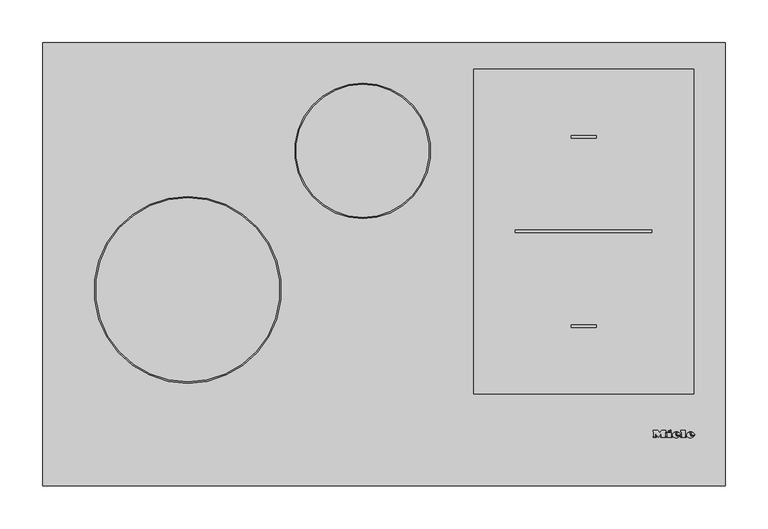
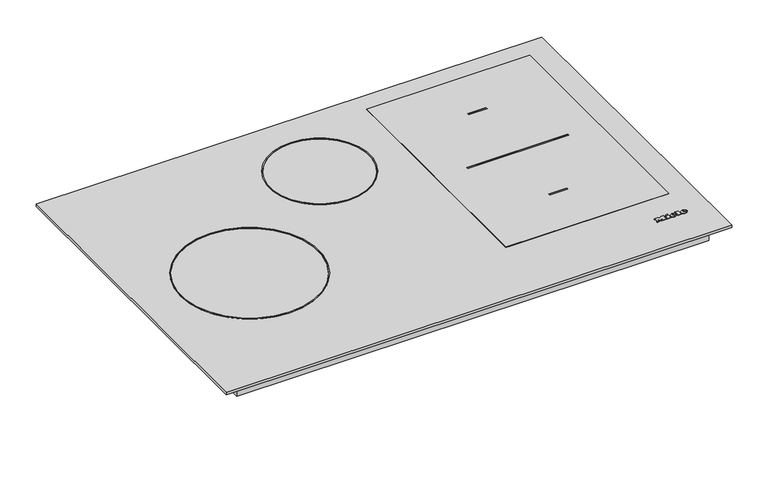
"""IFC4 building model written with IfcOpenShell, lengths in millimetres: proxy geometry, 11506350_D_KM7879FL : 26787970_D_11506350_KM7879FL."""

import ifcopenshell
import ifcopenshell.guid

model = None  # the IFC model being written
_history = None  # IfcOwnerHistory: only IFC2X3 demands one
_inside = {}  # id of a spatial element -> (the spatial element, [elements in it])
_under = {}  # id of a project, library or spatial element -> (it, [spatial elements below it])
_declared = {}  # id of a project -> (the project, [libraries it declares])
_typed = {}  # id of a type object -> (the type object, [elements of that type])
_made_of = {}  # id of a material, layer set ... -> (it, [elements and type objects made of it])


def new_model(schema):
    """Start an empty IFC model of exactly this schema.

    Asked for "IFC4X3", IfcOpenShell would pick the latest addendum, in which some entities
    have other attributes; the version numbers below select the first issue.
    IFC2X3 requires an IfcOwnerHistory on every rooted entity: one is made here for all.
    """
    global model, _history
    if schema == "IFC4X3":
        model = ifcopenshell.file(schema_version=(4, 3, 0, 0))
    else:
        model = ifcopenshell.file(schema=schema)
    _inside.clear()
    _under.clear()
    _declared.clear()
    _typed.clear()
    _made_of.clear()
    _history = None
    if model.schema == "IFC2X3":
        org = make("IfcOrganization", Name="unknown")
        user = make(
            "IfcPersonAndOrganization",
            ThePerson=make("IfcPerson", FamilyName="unknown"),
            TheOrganization=org,
        )
        app = make(
            "IfcApplication",
            ApplicationDeveloper=org,
            Version="unknown",
            ApplicationFullName="unknown",
            ApplicationIdentifier="unknown",
        )
        _history = make(
            "IfcOwnerHistory",
            OwningUser=user,
            OwningApplication=app,
            ChangeAction="ADDED",
            CreationDate=0,
        )
    return model


def make(cls, **values):
    """One entity of the class cls with the attributes given. An attribute that is None is left unset."""
    return model.create_entity(
        cls, **{name: value for name, value in values.items() if value is not None}
    )


def rooted(cls, **values):
    """An entity with a GlobalId (a new one), such as an element, a storey or a relation."""
    return make(cls, GlobalId=ifcopenshell.guid.new(), OwnerHistory=_history, **values)


def si_unit(unit_type, name, prefix=None):
    """IfcSIUnit, for example si_unit("LENGTHUNIT", "METRE", prefix="MILLI")."""
    return make("IfcSIUnit", UnitType=unit_type, Prefix=prefix, Name=name)


def assignment(units):
    """IfcUnitAssignment: the units of a project."""
    return None if units is None else make("IfcUnitAssignment", Units=units)


def point(xyz):
    """IfcCartesianPoint."""
    return None if xyz is None else make("IfcCartesianPoint", Coordinates=xyz)


def direction(xyz):
    """IfcDirection."""
    return None if xyz is None else make("IfcDirection", DirectionRatios=xyz)


def frame(location, z_axis=None, x_axis=None):
    """IfcAxis2Placement3D, a coordinate frame: its origin and axes. An axis left out is left unset."""
    return make(
        "IfcAxis2Placement3D",
        Location=point(location),
        Axis=direction(z_axis),
        RefDirection=direction(x_axis),
    )


def frame_2d(location, x_axis=None):
    """IfcAxis2Placement2D, a coordinate frame in the plane: its origin and x axis."""
    return make(
        "IfcAxis2Placement2D", Location=point(location), RefDirection=direction(x_axis)
    )


def origin():
    """The frame at (0, 0, 0) with its axes left unset."""
    return frame((0.0, 0.0, 0.0))


def origin_with_axes():
    """The frame at (0, 0, 0) with the z axis (0, 0, 1) and the x axis (1, 0, 0) written out."""
    return frame((0.0, 0.0, 0.0), z_axis=(0.0, 0.0, 1.0), x_axis=(1.0, 0.0, 0.0))


def place(relative_to, where):
    """IfcLocalPlacement: puts the frame where relative to a parent placement (None: the world)."""
    return make(
        "IfcLocalPlacement", PlacementRelTo=relative_to, RelativePlacement=where
    )


def context(
    kind, dimensions, precision=None, world=None, true_north=None, identifier=None
):
    """IfcGeometricRepresentationContext, for example the 3D "Model" context."""
    return make(
        "IfcGeometricRepresentationContext",
        ContextIdentifier=identifier,
        ContextType=kind,
        CoordinateSpaceDimension=dimensions,
        Precision=precision,
        WorldCoordinateSystem=world,
        TrueNorth=true_north,
    )


def project(units=None, contexts=None):
    """IfcProject with its units and contexts."""
    return rooted(
        "IfcProject",
        Name="project",
        RepresentationContexts=contexts,
        UnitsInContext=assignment(units),
    )


def spatial(cls, under=None, at=None, **own):
    """A site, building, storey or space (cls), placed at a placement, below another one or the project."""
    s = rooted(cls, ObjectPlacement=at, **own)
    if under is not None:
        _under.setdefault(under.id(), (under, []))[1].append(s)
    return s


def polyline(points):
    """IfcPolyline through the points."""
    return make("IfcPolyline", Points=[point(p) for p in points])


def circle_curve(where, radius):
    """IfcCircle in the frame where."""
    return make("IfcCircle", Position=where, Radius=radius)


def ellipse_curve(where, semi_axis1, semi_axis2):
    """IfcEllipse in the frame where."""
    return make(
        "IfcEllipse", Position=where, SemiAxis1=semi_axis1, SemiAxis2=semi_axis2
    )


def trimmed(basis, trim1, trim2, sense, master):
    """IfcTrimmedCurve: the piece of a basis curve between two trims."""
    return make(
        "IfcTrimmedCurve",
        BasisCurve=basis,
        Trim1=trim1,
        Trim2=trim2,
        SenseAgreement=sense,
        MasterRepresentation=master,
    )


def segment(curve, same_sense, transition):
    """IfcCompositeCurveSegment."""
    return make(
        "IfcCompositeCurveSegment",
        Transition=transition,
        SameSense=same_sense,
        ParentCurve=curve,
    )


def composite_curve(segments, self_intersect=None):
    """IfcCompositeCurve: segments joined end to end."""
    return make("IfcCompositeCurve", Segments=segments, SelfIntersect=self_intersect)


def outline(outer, holes=None, kind="AREA"):
    """IfcArbitraryClosedProfileDef: a profile drawn as a closed curve; with holes, ...WithVoids."""
    if holes is None:
        return make("IfcArbitraryClosedProfileDef", ProfileType=kind, OuterCurve=outer)
    return make(
        "IfcArbitraryProfileDefWithVoids",
        ProfileType=kind,
        OuterCurve=outer,
        InnerCurves=holes,
    )


def extrude(swept, where, along, depth):
    """IfcExtrudedAreaSolid: the profile swept, set in the frame where, extruded along a direction by depth."""
    return make(
        "IfcExtrudedAreaSolid",
        SweptArea=swept,
        Position=where,
        ExtrudedDirection=direction(along),
        Depth=depth,
    )


def shape(context_of_items, identifier, shape_type, items):
    """IfcShapeRepresentation: the items that make up one representation, for example the "Body"."""
    return make(
        "IfcShapeRepresentation",
        ContextOfItems=context_of_items,
        RepresentationIdentifier=identifier,
        RepresentationType=shape_type,
        Items=items,
    )


def source(mapping_origin, context_of_items, identifier, shape_type, items):
    """IfcRepresentationMap: a shape defined once, which mapped items show again and again."""
    return make(
        "IfcRepresentationMap",
        MappingOrigin=mapping_origin,
        MappedRepresentation=shape(context_of_items, identifier, shape_type, items),
    )


def transform(
    local_origin,
    x_axis=None,
    y_axis=None,
    z_axis=None,
    scale=None,
    scale2=None,
    scale3=None,
    uniform=True,
):
    """IfcCartesianTransformationOperator3D, or its non-uniform kind. x_axis, y_axis, z_axis: its Axis1, 2, 3."""
    if uniform:
        return make(
            "IfcCartesianTransformationOperator3D",
            Axis1=direction(x_axis),
            Axis2=direction(y_axis),
            LocalOrigin=point(local_origin),
            Scale=scale,
            Axis3=direction(z_axis),
        )
    return make(
        "IfcCartesianTransformationOperator3DnonUniform",
        Axis1=direction(x_axis),
        Axis2=direction(y_axis),
        LocalOrigin=point(local_origin),
        Scale=scale,
        Axis3=direction(z_axis),
        Scale2=scale2,
        Scale3=scale3,
    )


def mapped(mapping_source, mapping_target):
    """IfcMappedItem: shows the shape of a source again, moved by a transform."""
    return make(
        "IfcMappedItem", MappingSource=mapping_source, MappingTarget=mapping_target
    )


def made_of(thing, what):
    """Note that an element or type object is made of a material, layer set ...; save() writes the relation."""
    if what is not None:
        _made_of.setdefault(what.id(), (what, []))[1].append(thing)
    return thing


def element(
    cls,
    number,
    at=None,
    inside=None,
    cuts=None,
    type_object=None,
    material=None,
    context=None,
    identifier="Body",
    shape_type=None,
    held_by="IfcProductDefinitionShape",
    body=None,
    shapes=None,
    **own,
):
    """One element of the class cls, such as IfcWall. Its Tag is "e" and its number.

    at: its placement. inside: the storey or other place that contains it. cuts: it is an
    opening in that element (IfcRelVoidsElement). A single representation is given by context,
    identifier, shape_type and body (its items); several are given by shapes. held_by: the class
    of the entity that holds the representations. save() writes the other relations.
    """
    e = rooted(cls, Tag="e%d" % number, ObjectPlacement=at, **own)
    if body is not None:
        shapes = [shape(context, identifier, shape_type, body)]
    if shapes is not None:
        e.Representation = make(held_by, Representations=shapes)
    if inside is not None:
        _inside.setdefault(inside.id(), (inside, []))[1].append(e)
    if cuts is not None:
        rooted(
            "IfcRelVoidsElement", RelatingBuildingElement=cuts, RelatedOpeningElement=e
        )
    if type_object is not None:
        _typed.setdefault(type_object.id(), (type_object, []))[1].append(e)
    return made_of(e, material)


def aggregate(whole, parts):
    """IfcRelAggregates: a whole, such as a stair, and the parts it consists of."""
    return rooted("IfcRelAggregates", RelatingObject=whole, RelatedObjects=parts)


def save(model, path):
    """Write the relations noted so far, then the file.

    IfcRelAggregates (storeys below a building ...), IfcRelContainedInSpatialStructure (elements
    in a storey), IfcRelDefinesByType, IfcRelAssociatesMaterial and IfcRelDeclares: one each for
    every whole, place, type object, material and project.
    """
    for whole, parts in _under.values():
        aggregate(whole, parts)
    for where, things in _inside.values():
        rooted(
            "IfcRelContainedInSpatialStructure",
            RelatedElements=things,
            RelatingStructure=where,
        )
    for kind, things in _typed.values():
        rooted("IfcRelDefinesByType", RelatedObjects=things, RelatingType=kind)
    for what, things in _made_of.values():
        rooted("IfcRelAssociatesMaterial", RelatedObjects=things, RelatingMaterial=what)
    for by, libraries in _declared.values():
        rooted("IfcRelDeclares", RelatingContext=by, RelatedDefinitions=libraries)
    model.write(path)


def plane_surface(at):
    """IfcPlane: the flat surface through the origin of the frame at, square to its z axis."""
    return make("IfcPlane", Position=at)


def cylinder_surface(at, radius):
    """IfcCylindricalSurface: all points at the distance radius from the z axis of the frame at."""
    return make("IfcCylindricalSurface", Position=at, Radius=radius)


def revolved_surface(curve, axis_point, axis_direction):
    """IfcSurfaceOfRevolution: the curve turned about the line through axis_point along axis_direction."""
    return make(
        "IfcSurfaceOfRevolution",
        SweptCurve=make("IfcArbitraryOpenProfileDef", ProfileType="CURVE", Curve=curve),
        AxisPosition=make("IfcAxis1Placement", Location=point(axis_point), Axis=direction(axis_direction)),
    )


def extruded_surface(curve, direction_of_extrusion, depth):
    """IfcSurfaceOfLinearExtrusion: the curve pushed along a direction by depth."""
    return make(
        "IfcSurfaceOfLinearExtrusion",
        SweptCurve=make("IfcArbitraryOpenProfileDef", ProfileType="CURVE", Curve=curve),
        ExtrudedDirection=direction(direction_of_extrusion),
        Depth=depth,
    )


def advanced_brep(points, edges, surfaces, faces):
    """IfcAdvancedBrep: a solid bounded by faces that lie on surfaces and meet in shared edges.

    An edge is (start, end): straight between two places in points (the first is 0);
    or (start, end, curve); or (start, end, curve, False) where it runs against its curve.
    A face is (place in surfaces, loops), or (place, loops, False) where it looks against
    its surface's normal. A loop lists edges by number (the first is 1), with a minus sign
    where the edge is run from its end to its start. The first loop is the outer one.
    """
    corners = [point(p) for p in points]
    vertices = [make("IfcVertexPoint", VertexGeometry=c) for c in corners]
    made = []
    for start, end, *more in edges:
        made.append(
            make(
                "IfcEdgeCurve",
                EdgeStart=vertices[start],
                EdgeEnd=vertices[end],
                EdgeGeometry=more[0] if more else make("IfcPolyline", Points=[corners[start], corners[end]]),
                SameSense=more[1] if len(more) > 1 else True,
            )
        )
    hull = []
    for where, loops, *sense in faces:
        bounds = []
        for j, loop in enumerate(loops):
            ring = [make("IfcOrientedEdge", EdgeElement=made[abs(k) - 1], Orientation=k > 0) for k in loop]
            bounds.append(
                make(
                    "IfcFaceOuterBound" if j == 0 else "IfcFaceBound",
                    Bound=make("IfcEdgeLoop", EdgeList=ring),
                    Orientation=True,
                )
            )
        hull.append(make("IfcAdvancedFace", Bounds=bounds, FaceSurface=surfaces[where], SameSense=sense[0] if sense else True))
    return make("IfcAdvancedBrep", Outer=make("IfcClosedShell", CfsFaces=hull))


def specialty_equipment_7e4819c2(model_context):
    return source(origin(), model_context, "Body", "SolidModel", [
        advanced_brep(
        [(358.648, 58.8948833, 4.9922537), (358.648, 59.7028828, 4.9931551), (364.0, 59.7028828, 4.9931551), (354.688, 59.7028828, 4.9931551), (356.888, 56.9988845, 4.9901386), (363.864, 58.8948833, 4.9922537), (361.448, 58.8948833, 4.9922537), (359.544, 57.9988838, 4.9912542), (358.648, 60.7268821, 4.9942974), (358.648, 61.5988816, 4.9952701), (360.016, 61.5988816, 4.9952701), (360.016, 60.7268821, 4.9942974), (358.648, 58.8959988, 3.9922543), (359.544, 57.9999994, 3.9912548), (361.448, 58.8959988, 3.9922543), (363.864, 58.8959988, 3.9922543), (356.888, 57.0, 3.9901393), (354.688, 59.7039983, 3.9931557), (364.0, 59.7039983, 3.9931557), (358.648, 59.7039983, 3.9931557), (358.648, 60.7279977, 3.994298), (360.016, 60.7279977, 3.994298), (360.016, 61.5999971, 3.9952707), (358.648, 61.5999971, 3.9952707)],
        [
            (0, 1),
            (1, 2),
            (2, 3, ellipse_curve(frame((359.344, 59.7028828, 4.9931551), z_axis=(0.0, -0.0011155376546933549, 0.9999993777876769), x_axis=(-1.0, 0.0, 0.0)), 4.656, 3.848)),
            (3, 4, circle_curve(frame((357.7840436, 59.9748826, 4.9934585), z_axis=(0.0, -0.0011155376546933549, 0.9999993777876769), x_axis=(0.0, -0.9999993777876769, -0.0011155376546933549)), 3.1079688)),
            (4, 5, circle_curve(frame((359.2507936, 62.0868813, 4.9958145), z_axis=(0.0, -0.0011155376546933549, 0.9999993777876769), x_axis=(0.0, -0.9999993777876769, -0.0011155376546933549)), 5.6098607)),
            (5, 6),
            (6, 7, circle_curve(frame((359.9350588, 59.6388828, 4.9930837), z_axis=(0.0, 0.0011155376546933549, -0.9999993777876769), x_axis=(0.0, -0.9999993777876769, -0.0011155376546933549)), 1.6859795)),
            (7, 0, circle_curve(frame((359.544, 58.8948833, 4.9922537), z_axis=(0.0, 0.0011155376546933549, -0.9999993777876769), x_axis=(0.0, -0.9999993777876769, -0.0011155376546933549)), 0.896)),
            (8, 9),
            (9, 10, circle_curve(frame((359.332, 61.5988816, 4.9952701), z_axis=(0.0, 0.0011155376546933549, -0.9999993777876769), x_axis=(0.0, -0.9999993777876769, -0.0011155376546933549)), 0.684)),
            (10, 11),
            (11, 8),
            (12, 13, circle_curve(frame((359.544, 58.8959988, 3.9922543), z_axis=(0.0, -0.0011155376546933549, 0.9999993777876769), x_axis=(0.0, -0.9999993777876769, -0.0011155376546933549)), 0.896)),
            (13, 14, circle_curve(frame((359.9350588, 59.6399984, 3.9930843), z_axis=(0.0, -0.0011155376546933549, 0.9999993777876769), x_axis=(0.0, -0.9999993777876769, -0.0011155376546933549)), 1.6859795)),
            (14, 15),
            (15, 16, circle_curve(frame((359.2507936, 62.0879968, 3.9958151), z_axis=(0.0, 0.0011155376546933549, -0.9999993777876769), x_axis=(0.0, -0.9999993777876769, -0.0011155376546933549)), 5.6098607)),
            (16, 17, circle_curve(frame((357.7840436, 59.9759981, 3.9934591), z_axis=(0.0, 0.0011155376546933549, -0.9999993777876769), x_axis=(0.0, -0.9999993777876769, -0.0011155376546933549)), 3.1079688)),
            (17, 18, ellipse_curve(frame((359.344, 59.7039983, 3.9931557), z_axis=(0.0, 0.0011155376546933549, -0.9999993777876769), x_axis=(-1.0, 0.0, 0.0)), 4.656, 3.848)),
            (18, 19),
            (19, 12),
            (20, 21),
            (21, 22),
            (22, 23, circle_curve(frame((359.332, 61.5999971, 3.9952707), z_axis=(0.0, -0.0011155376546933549, 0.9999993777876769), x_axis=(0.0, -0.9999993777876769, -0.0011155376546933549)), 0.684)),
            (23, 20),
            (0, 12),
            (19, 1),
            (18, 2),
            (5, 15),
            (14, 6),
            (17, 3),
            (13, 7),
            (16, 4),
            (8, 20),
            (23, 9),
            (22, 10),
            (21, 11),
        ],
        [
            plane_surface(frame((358.648, 59.7028828, 4.9931551), z_axis=(0.0, -0.0011155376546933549, 0.9999993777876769), x_axis=(0.0, 0.9999993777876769, 0.0011155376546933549))),
            plane_surface(frame((358.648, 59.7039983, 3.9931557), z_axis=(0.0, 0.0011155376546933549, -0.9999993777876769), x_axis=(0.0, -0.9999993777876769, -0.0011155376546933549))),
            plane_surface(frame((358.648, 58.8948833, 4.9922537), z_axis=(1.0000000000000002, 0.0, 0.0), x_axis=(0.0, 0.001115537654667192, -0.999999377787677))),
            plane_surface(frame((358.648, 59.7028828, 4.9931551), z_axis=(0.0, -0.999999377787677, -0.001115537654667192), x_axis=(0.0, 0.001115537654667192, -0.999999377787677))),
            plane_surface(frame((363.864, 58.8948833, 4.9922537), z_axis=(0.0, 0.999999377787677, 0.001115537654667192), x_axis=(0.0, 0.001115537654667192, -0.999999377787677))),
            extruded_surface(trimmed(ellipse_curve(frame((359.344, 59.7051139, 2.9931563), z_axis=(0.0, -0.0011155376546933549, 0.9999993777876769), x_axis=(-1.0, 0.0, 0.0)), 4.656, 3.848), [point((364.0, 59.7051139, 2.9931563))], [point((354.688, 59.7051139, 2.9931563))], True, "CARTESIAN"), (0.0, -0.001115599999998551, 0.9999994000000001), 1.00000002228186),
            revolved_surface(polyline([(359.9350588, 57.954019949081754, 3.991203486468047), (359.9350588, 57.95290441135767, 4.99120292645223)]), (359.9350588, 59.6399984, 3.9930843), (0.0, 0.0011155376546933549, -0.9999993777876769)),
            revolved_surface(polyline([(359.544, 57.99999935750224, 3.9912547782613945), (359.544, 57.99888381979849, 4.991254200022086)]), (359.544, 58.8959988, 3.9922543), (0.0, 0.0011155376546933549, -0.9999993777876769)),
            cylinder_surface(frame((357.7840436, 59.9759981, 3.9934591), z_axis=(0.0, -0.0011155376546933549, 0.9999993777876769), x_axis=(0.0, -0.9999993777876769, -0.0011155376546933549)), 3.1079688),
            cylinder_surface(frame((359.2507936, 62.0879968, 3.9958151), z_axis=(0.0, -0.0011155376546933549, 0.9999993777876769), x_axis=(0.0, -0.9999993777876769, -0.0011155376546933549)), 5.6098607),
            plane_surface(frame((358.648, 60.7268821, 4.9942974), z_axis=(1.0000000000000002, 0.0, 0.0), x_axis=(0.0, 0.001115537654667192, -0.999999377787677))),
            revolved_surface(polyline([(359.332, 60.915997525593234, 3.9945076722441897), (359.332, 60.91488198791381, 4.994507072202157)]), (359.332, 61.5999971, 3.9952707), (0.0, 0.0011155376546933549, -0.9999993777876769)),
            plane_surface(frame((360.016, 61.5988816, 4.9952701), z_axis=(-1.0000000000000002, 0.0, 0.0), x_axis=(0.0, 0.001115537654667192, -0.999999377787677))),
            plane_surface(frame((360.016, 60.7268821, 4.9942974), z_axis=(0.0, 0.999999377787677, 0.001115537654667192), x_axis=(0.0, 0.001115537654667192, -0.999999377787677))),
        ],
        [
            (0, [[1, 2, 3, 4, 5, 6, 7, 8], [9, 10, 11, 12]]),
            (1, [[13, 14, 15, 16, 17, 18, 19, 20], [21, 22, 23, 24]]),
            (2, [[-1, 25, -20, 26]]),
            (3, [[-2, -26, -19, 27]]),
            (4, [[-6, 28, -15, 29]]),
            (5, [[-3, -27, -18, 30]]),
            (6, [[-7, -29, -14, 31]]),
            (7, [[-8, -31, -13, -25]]),
            (8, [[-4, -30, -17, 32]]),
            (9, [[-5, -32, -16, -28]]),
            (10, [[-9, 33, -24, 34]]),
            (11, [[-10, -34, -23, 35]]),
            (12, [[-11, -35, -22, 36]]),
            (13, [[-12, -36, -21, -33]]),
        ],
    ),
        advanced_brep(
        [(341.952, 58.8948833, 4.9922537), (341.952, 59.7028828, 4.9931551), (347.304, 59.7028828, 4.9931551), (337.992, 59.7028828, 4.9931551), (340.192, 56.9988845, 4.9901386), (347.168, 58.8948833, 4.9922537), (344.752, 58.8948833, 4.9922537), (342.848, 57.9988838, 4.9912542), (341.952, 60.7268821, 4.9942974), (341.952, 61.5988816, 4.9952701), (343.32, 61.5988816, 4.9952701), (343.32, 60.7268821, 4.9942974), (341.952, 58.8959988, 3.9922543), (342.848, 57.9999994, 3.9912548), (344.752, 58.8959988, 3.9922543), (347.168, 58.8959988, 3.9922543), (340.192, 57.0, 3.9901393), (337.992, 59.7039983, 3.9931557), (347.304, 59.7039983, 3.9931557), (341.952, 59.7039983, 3.9931557), (341.952, 60.7279977, 3.994298), (343.32, 60.7279977, 3.994298), (343.32, 61.5999971, 3.9952707), (341.952, 61.5999971, 3.9952707)],
        [
            (0, 1),
            (1, 2),
            (2, 3, ellipse_curve(frame((342.648, 59.7028828, 4.9931551), z_axis=(0.0, -0.0011155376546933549, 0.9999993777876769), x_axis=(-1.0, 0.0, 0.0)), 4.656, 3.848)),
            (3, 4, circle_curve(frame((341.0880436, 59.9748826, 4.9934585), z_axis=(0.0, -0.0011155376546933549, 0.9999993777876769), x_axis=(0.0, -0.9999993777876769, -0.0011155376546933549)), 3.1079688)),
            (4, 5, circle_curve(frame((342.5547936, 62.0868813, 4.9958145), z_axis=(0.0, -0.0011155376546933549, 0.9999993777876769), x_axis=(0.0, -0.9999993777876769, -0.0011155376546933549)), 5.6098607)),
            (5, 6),
            (6, 7, circle_curve(frame((343.2390588, 59.6388828, 4.9930837), z_axis=(0.0, 0.0011155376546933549, -0.9999993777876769), x_axis=(0.0, -0.9999993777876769, -0.0011155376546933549)), 1.6859795)),
            (7, 0, circle_curve(frame((342.848, 58.8948833, 4.9922537), z_axis=(0.0, 0.0011155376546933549, -0.9999993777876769), x_axis=(0.0, -0.9999993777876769, -0.0011155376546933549)), 0.896)),
            (8, 9),
            (9, 10, circle_curve(frame((342.636, 61.5988816, 4.9952701), z_axis=(0.0, 0.0011155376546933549, -0.9999993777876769), x_axis=(0.0, -0.9999993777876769, -0.0011155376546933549)), 0.684)),
            (10, 11),
            (11, 8),
            (12, 13, circle_curve(frame((342.848, 58.8959988, 3.9922543), z_axis=(0.0, -0.0011155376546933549, 0.9999993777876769), x_axis=(0.0, -0.9999993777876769, -0.0011155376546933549)), 0.896)),
            (13, 14, circle_curve(frame((343.2390588, 59.6399984, 3.9930843), z_axis=(0.0, -0.0011155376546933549, 0.9999993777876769), x_axis=(0.0, -0.9999993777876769, -0.0011155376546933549)), 1.6859795)),
            (14, 15),
            (15, 16, circle_curve(frame((342.5547936, 62.0879968, 3.9958151), z_axis=(0.0, 0.0011155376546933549, -0.9999993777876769), x_axis=(0.0, -0.9999993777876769, -0.0011155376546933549)), 5.6098607)),
            (16, 17, circle_curve(frame((341.0880436, 59.9759981, 3.9934591), z_axis=(0.0, 0.0011155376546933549, -0.9999993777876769), x_axis=(0.0, -0.9999993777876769, -0.0011155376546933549)), 3.1079688)),
            (17, 18, ellipse_curve(frame((342.648, 59.7039983, 3.9931557), z_axis=(0.0, 0.0011155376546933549, -0.9999993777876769), x_axis=(-1.0, 0.0, 0.0)), 4.656, 3.848)),
            (18, 19),
            (19, 12),
            (20, 21),
            (21, 22),
            (22, 23, circle_curve(frame((342.636, 61.5999971, 3.9952707), z_axis=(0.0, -0.0011155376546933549, 0.9999993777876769), x_axis=(0.0, -0.9999993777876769, -0.0011155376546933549)), 0.684)),
            (23, 20),
            (0, 12),
            (19, 1),
            (18, 2),
            (5, 15),
            (14, 6),
            (17, 3),
            (13, 7),
            (16, 4),
            (8, 20),
            (23, 9),
            (22, 10),
            (21, 11),
        ],
        [
            plane_surface(frame((341.952, 59.7028828, 4.9931551), z_axis=(0.0, -0.0011155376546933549, 0.9999993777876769), x_axis=(0.0, 0.9999993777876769, 0.0011155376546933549))),
            plane_surface(frame((341.952, 59.7039983, 3.9931557), z_axis=(0.0, 0.0011155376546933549, -0.9999993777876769), x_axis=(0.0, -0.9999993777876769, -0.0011155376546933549))),
            plane_surface(frame((341.952, 58.8948833, 4.9922537), z_axis=(1.0000000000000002, 0.0, 0.0), x_axis=(0.0, 0.001115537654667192, -0.999999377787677))),
            plane_surface(frame((341.952, 59.7028828, 4.9931551), z_axis=(0.0, -0.999999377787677, -0.001115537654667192), x_axis=(0.0, 0.001115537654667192, -0.999999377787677))),
            plane_surface(frame((347.168, 58.8948833, 4.9922537), z_axis=(0.0, 0.999999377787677, 0.001115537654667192), x_axis=(0.0, 0.001115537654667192, -0.999999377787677))),
            extruded_surface(trimmed(ellipse_curve(frame((342.648, 59.7051139, 2.9931563), z_axis=(0.0, -0.0011155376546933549, 0.9999993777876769), x_axis=(-1.0, 0.0, 0.0)), 4.656, 3.848), [point((347.304, 59.7051139, 2.9931563))], [point((337.992, 59.7051139, 2.9931563))], True, "CARTESIAN"), (0.0, -0.001115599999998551, 0.9999994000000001), 1.00000002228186),
            revolved_surface(polyline([(343.2390588, 57.954019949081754, 3.991203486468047), (343.2390588, 57.95290441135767, 4.99120292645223)]), (343.2390588, 59.6399984, 3.9930843), (0.0, 0.0011155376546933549, -0.9999993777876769)),
            revolved_surface(polyline([(342.848, 57.99999935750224, 3.9912547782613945), (342.848, 57.99888381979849, 4.991254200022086)]), (342.848, 58.8959988, 3.9922543), (0.0, 0.0011155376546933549, -0.9999993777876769)),
            cylinder_surface(frame((341.0880436, 59.9759981, 3.9934591), z_axis=(0.0, -0.0011155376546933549, 0.9999993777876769), x_axis=(0.0, -0.9999993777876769, -0.0011155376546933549)), 3.1079688),
            cylinder_surface(frame((342.5547936, 62.0879968, 3.9958151), z_axis=(0.0, -0.0011155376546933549, 0.9999993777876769), x_axis=(0.0, -0.9999993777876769, -0.0011155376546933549)), 5.6098607),
            plane_surface(frame((341.952, 60.7268821, 4.9942974), z_axis=(1.0000000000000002, 0.0, 0.0), x_axis=(0.0, 0.001115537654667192, -0.999999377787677))),
            revolved_surface(polyline([(342.636, 60.915997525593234, 3.9945076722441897), (342.636, 60.91488198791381, 4.994507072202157)]), (342.636, 61.5999971, 3.9952707), (0.0, 0.0011155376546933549, -0.9999993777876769)),
            plane_surface(frame((343.32, 61.5988816, 4.9952701), z_axis=(-1.0000000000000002, 0.0, 0.0), x_axis=(0.0, 0.001115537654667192, -0.999999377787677))),
            plane_surface(frame((343.32, 60.7268821, 4.9942974), z_axis=(0.0, 0.999999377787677, 0.001115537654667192), x_axis=(0.0, 0.001115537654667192, -0.999999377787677))),
        ],
        [
            (0, [[1, 2, 3, 4, 5, 6, 7, 8], [9, 10, 11, 12]]),
            (1, [[13, 14, 15, 16, 17, 18, 19, 20], [21, 22, 23, 24]]),
            (2, [[-1, 25, -20, 26]]),
            (3, [[-2, -26, -19, 27]]),
            (4, [[-6, 28, -15, 29]]),
            (5, [[-3, -27, -18, 30]]),
            (6, [[-7, -29, -14, 31]]),
            (7, [[-8, -31, -13, -25]]),
            (8, [[-4, -30, -17, 32]]),
            (9, [[-5, -32, -16, -28]]),
            (10, [[-9, 33, -24, 34]]),
            (11, [[-10, -34, -23, 35]]),
            (12, [[-11, -35, -22, 36]]),
            (13, [[-12, -36, -21, -33]]),
        ],
    ),
        extrude(outline(polyline([(0.0, 0.0), (-0.0109086, -2.9993294), (-1.4390415, -2.9920868), (-1.4315307, 0.0), (0.0, 0.0)])), frame((333.208, 64.5279953, 3.998537), z_axis=(0.0, -0.001115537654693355, 0.999999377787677), x_axis=(-0.4247202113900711, 0.9053240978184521, 0.0010099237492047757)), (0.0, 0.0, 1.0), 1.0),
        extrude(outline(polyline([(-0.4933908, 2.4141097), (-2.7800844, -2.4601583), (-7.0459741, -0.4588767), (-7.4401145, -1.299018), (-8.6568709, -0.728194), (-5.9760369, 4.9862153), (-4.7592805, 4.4153913), (-5.1636142, 3.5535222), (-2.1941493, 2.1604399), (-1.7898157, 3.022309), (-0.4933908, 2.4141097)])), frame((333.208, 64.5279953, 3.998537), z_axis=(0.0, -0.001115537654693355, 0.999999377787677), x_axis=(-0.4247202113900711, 0.9053240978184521, 0.0010099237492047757)), (0.0, 0.0, 1.0), 1.0),
        extrude(outline(polyline([(0.0, 0.0), (0.0, -1.304), (-5.504, -1.304), (-5.504, 5.3519999), (-6.488, 5.3519999), (-6.488, 6.696), (0.0, 6.696), (0.0, 5.3519999), (-0.96, 5.3519999), (-0.96, 0.0), (0.0, 0.0)])), frame((347.752, 63.6959958, 3.9976089), z_axis=(0.0, -0.0011155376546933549, 0.9999993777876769), x_axis=(-1.0, 0.0, 0.0)), (0.0, 0.0, 1.0), 1.0),
        extrude(outline(polyline([(0.0, 0.0), (0.0, -1.304), (-5.576, -1.304), (-7.92, 1.696), (-10.256, -1.304), (-15.128, -1.304), (-15.128, 0.0), (-14.112, 0.0), (-14.112, 5.3519999), (-15.128, 5.3519999), (-15.128, 6.696), (-8.744, 6.696), (-8.744, 5.3519999), (-9.728, 5.3519999), (-9.728, 1.8807777), (-6.136, 6.696), (-2.56, 1.9488752), (-2.56, 5.3519999), (-3.52, 5.3519999), (-3.52, 6.696), (0.0, 6.696), (0.0, 5.3519999), (-0.968, 5.3519999), (-0.968, 0.0), (0.0, 0.0)])), frame((315.288, 63.6959958, 3.9976089), z_axis=(0.0, -0.0011155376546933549, 0.9999993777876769), x_axis=(-1.0, 0.0, 0.0)), (0.0, 0.0, 1.0), 1.0),
        extrude(outline(polyline([(182.3772603, 428.0), (175.0, 428.0), (175.0, 429.2557039), (181.1215564, 429.2557039), (181.1215564, 432.5519266), (175.470889, 432.5519266), (175.470889, 433.8076304), (181.1215564, 433.8076304), (181.1215564, 436.7899271), (175.156963, 436.7899271), (175.156963, 438.045631), (182.3772603, 438.045631), (182.3772603, 428.0)])), frame((0.0, 0.0, -78.0), z_axis=(0.0, 0.0, 1.0), x_axis=(1.0, 0.0, 0.0)), (0.0, 0.0, 1.0), 1.0),
        extrude(outline(polyline([(173.1164442, 428.0), (166.8379248, 428.0), (166.8379248, 429.2557039), (171.8607403, 429.2557039), (171.8607403, 438.045631), (173.1164442, 438.045631), (173.1164442, 428.0)])), frame((0.0, 0.0, -78.0), z_axis=(0.0, 0.0, 1.0), x_axis=(1.0, 0.0, 0.0)), (0.0, 0.0, 1.0), 1.0),
        extrude(outline(polyline([(400.0, 520.0), (400.0, 0.0), (-400.0, 0.0), (-400.0, 520.0), (400.0, 520.0)])), origin_with_axes(), (0.0, 0.0, 1.0), 4.0),
        extrude(outline(polyline([(373.5, 503.5), (373.5, 16.5), (-373.5, 16.5), (-373.5, 503.5), (373.5, 503.5)])), frame((0.0, 0.0, -22.0), z_axis=(0.0, 0.0, 1.0), x_axis=(1.0, 0.0, 0.0)), (0.0, 0.0, 1.0), 22.0),
        extrude(outline(composite_curve([segment(trimmed(circle_curve(frame_2d((-25.0, 393.0)), 79.5), [point((-25.0, 472.5))], [point((-25.0, 313.5))], False, "CARTESIAN"), True, "CONTINUOUS"), segment(trimmed(circle_curve(frame_2d((-25.0, 393.0)), 79.5), [point((-25.0, 313.5))], [point((-25.0, 472.5))], False, "CARTESIAN"), True, "CONTINUOUS")], self_intersect=False), holes=[composite_curve([segment(trimmed(circle_curve(frame_2d((-25.0, 393.0)), 78.0), [point((-25.0, 471.0))], [point((-25.0, 315.0))], True, "CARTESIAN"), True, "CONTINUOUS"), segment(trimmed(circle_curve(frame_2d((-25.0, 393.0)), 78.0), [point((-25.0, 315.0))], [point((-25.0, 471.0))], True, "CARTESIAN"), True, "CONTINUOUS")], self_intersect=False)]), frame((0.0, 0.0, 4.0), z_axis=(0.0, 0.0, 1.0), x_axis=(1.0, 0.0, 0.0)), (0.0, 0.0, 1.0), 1.0),
        extrude(outline(composite_curve([segment(trimmed(circle_curve(frame_2d((-230.0, 230.0)), 109.5), [point((-230.0, 339.5))], [point((-230.0, 120.5))], False, "CARTESIAN"), True, "CONTINUOUS"), segment(trimmed(circle_curve(frame_2d((-230.0, 230.0)), 109.5), [point((-230.0, 120.5))], [point((-230.0, 339.5))], False, "CARTESIAN"), True, "CONTINUOUS")], self_intersect=False), holes=[composite_curve([segment(trimmed(circle_curve(frame_2d((-230.0, 230.0)), 108.0), [point((-230.0, 338.0))], [point((-230.0, 122.0))], True, "CARTESIAN"), True, "CONTINUOUS"), segment(trimmed(circle_curve(frame_2d((-230.0, 230.0)), 108.0), [point((-230.0, 122.0))], [point((-230.0, 338.0))], True, "CARTESIAN"), True, "CONTINUOUS")], self_intersect=False)]), frame((0.0, 0.0, 4.0), z_axis=(0.0, 0.0, 1.0), x_axis=(1.0, 0.0, 0.0)), (0.0, 0.0, 1.0), 1.0),
        extrude(outline(polyline([(363.0, 489.0), (363.0, 108.0), (105.0, 108.0), (105.0, 489.0), (363.0, 489.0)]), holes=[polyline([(248.5, 411.0), (219.5, 411.0), (219.5, 408.0), (248.5, 408.0), (248.5, 411.0)]), polyline([(314.0, 297.0), (314.0, 300.0), (154.0, 300.0), (154.0, 297.0), (314.0, 297.0)]), polyline([(248.5, 189.0), (219.5, 189.0), (219.5, 186.0), (248.5, 186.0), (248.5, 189.0)])]), frame((0.0, 0.0, 4.0), z_axis=(0.0, 0.0, 1.0), x_axis=(1.0, 0.0, 0.0)), (0.0, 0.0, 1.0), 1.0),
        extrude(outline(composite_curve([segment(trimmed(circle_curve(frame_2d((175.0, 433.0)), 7.5), [point((175.0, 440.5))], [point((175.0, 425.5))], False, "CARTESIAN"), True, "CONTINUOUS"), segment(trimmed(circle_curve(frame_2d((175.0, 433.0)), 7.5), [point((175.0, 425.5))], [point((175.0, 440.5))], False, "CARTESIAN"), True, "CONTINUOUS")], self_intersect=False)), frame((0.0, 0.0, -77.0), z_axis=(0.0, 0.0, 1.0), x_axis=(1.0, 0.0, 0.0)), (0.0, 0.0, 1.0), 30.0),
        extrude(outline(polyline([(253.0, 467.0), (253.0, 96.0), (-253.0, 96.0), (-253.0, 467.0), (253.0, 467.0)])), frame((0.0, 0.0, -47.0), z_axis=(0.0, 0.0, 1.0), x_axis=(1.0, 0.0, 0.0)), (0.0, 0.0, 1.0), 25.0),
    ])


if __name__ == "__main__":
    model = new_model("IFC4")
    model_context = context("Model", 3, world=origin())
    ifc_project = project(units=[si_unit("LENGTHUNIT", "METRE", prefix="MILLI")], contexts=[model_context])
    site = spatial("IfcSite", under=ifc_project)
    building = spatial("IfcBuilding", under=site)
    placement = place(None, origin())
    specialty_equipment_shape = specialty_equipment_7e4819c2(model_context)
    element("IfcBuildingElementProxy", 1, Name="11506350_D_KM7879FL : 26787970_D_11506350_KM7879FL", ObjectType="11506350_D_KM7879FL : 26787970_D_11506350_KM7879FL", at=placement, inside=building, context=model_context, shape_type="MappedRepresentation", body=[
        mapped(specialty_equipment_shape, transform((0.0, 0.0, 0.0), x_axis=(1.0, 0.0, 0.0), y_axis=(0.0, 1.0, 0.0), z_axis=(0.0, 0.0, 1.0))),
    ])
    save(model, "model.ifc")
